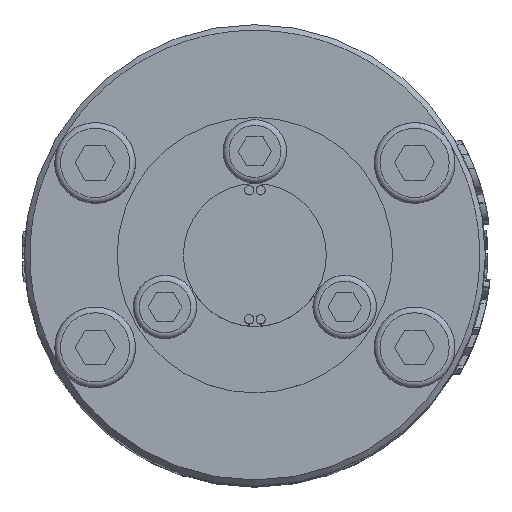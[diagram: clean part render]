
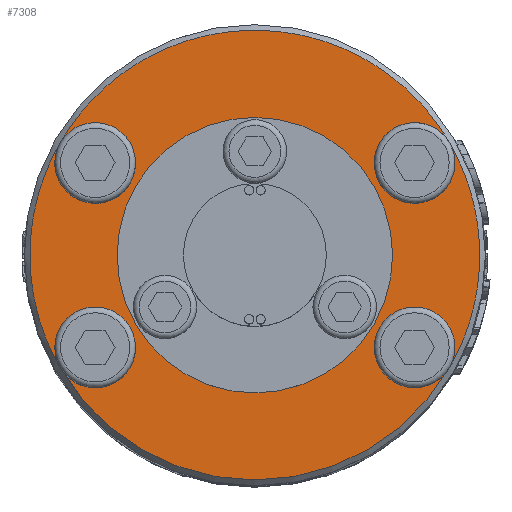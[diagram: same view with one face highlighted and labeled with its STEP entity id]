
A CAD part, top view. The second image highlights one B-rep face of the part: STEP entity #7308.
In plain terms, the highlighted planar face has unit normal (0, 0, 1).
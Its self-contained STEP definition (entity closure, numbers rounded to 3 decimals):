
#7308=ADVANCED_FACE('',(#9370,#9371),#8684,.T.);
#8684=PLANE('',#24955);
#9370=FACE_BOUND('',#9834,.T.);
#9371=FACE_BOUND('',#9835,.T.);
#9834=EDGE_LOOP('',(#11598,#11599,#11600,#11601,#11602,#11603,#11604,#11605));
#9835=EDGE_LOOP('',(#11606));
#11598=ORIENTED_EDGE('',*,*,#21105,.T.);
#11599=ORIENTED_EDGE('',*,*,#21025,.F.);
#11600=ORIENTED_EDGE('',*,*,#21104,.T.);
#11601=ORIENTED_EDGE('',*,*,#21088,.F.);
#11602=ORIENTED_EDGE('',*,*,#21103,.T.);
#11603=ORIENTED_EDGE('',*,*,#21067,.F.);
#11604=ORIENTED_EDGE('',*,*,#21106,.T.);
#11605=ORIENTED_EDGE('',*,*,#21046,.F.);
#11606=ORIENTED_EDGE('',*,*,#21012,.F.);
#18573=VERTEX_POINT('',#29911);
#18586=VERTEX_POINT('',#29947);
#18601=VERTEX_POINT('',#29993);
#18616=VERTEX_POINT('',#30039);
#18631=VERTEX_POINT('',#30085);
#21012=EDGE_CURVE('',#18573,#18573,#24594,.T.);
#21025=EDGE_CURVE('',#18586,#18586,#24601,.T.);
#21046=EDGE_CURVE('',#18601,#18601,#24604,.T.);
#21067=EDGE_CURVE('',#18616,#18616,#24607,.T.);
#21088=EDGE_CURVE('',#18631,#18631,#24610,.T.);
#21103=EDGE_CURVE('',#18631,#18616,#24613,.T.);
#21104=EDGE_CURVE('',#18586,#18631,#24614,.T.);
#21105=EDGE_CURVE('',#18601,#18586,#24615,.T.);
#21106=EDGE_CURVE('',#18616,#18601,#24616,.T.);
#24594=CIRCLE('',#24879,11.95);
#24601=CIRCLE('',#24896,3.5);
#24604=CIRCLE('',#24909,3.5);
#24607=CIRCLE('',#24922,3.5);
#24610=CIRCLE('',#24935,3.5);
#24613=CIRCLE('',#24948,19.5);
#24614=CIRCLE('',#24949,19.5);
#24615=CIRCLE('',#24950,19.5);
#24616=CIRCLE('',#24951,19.5);
#24879=AXIS2_PLACEMENT_3D('',#29910,#26091,#26092);
#24896=AXIS2_PLACEMENT_3D('',#29946,#26131,#26132);
#24909=AXIS2_PLACEMENT_3D('',#29992,#26175,#26176);
#24922=AXIS2_PLACEMENT_3D('',#30038,#26219,#26220);
#24935=AXIS2_PLACEMENT_3D('',#30084,#26263,#26264);
#24948=AXIS2_PLACEMENT_3D('',#30118,#26301,#26302);
#24949=AXIS2_PLACEMENT_3D('',#30119,#26303,#26304);
#24950=AXIS2_PLACEMENT_3D('',#30120,#26305,#26306);
#24951=AXIS2_PLACEMENT_3D('',#30121,#26307,#26308);
#24955=AXIS2_PLACEMENT_3D('',#30126,#26315,#26316);
#26091=DIRECTION('',(0.,0.,1.));
#26092=DIRECTION('',(0.,1.,0.));
#26131=DIRECTION('',(0.,0.,1.));
#26132=DIRECTION('',(1.,0.,0.));
#26175=DIRECTION('',(0.,0.,1.));
#26176=DIRECTION('',(1.,0.,0.));
#26219=DIRECTION('',(0.,0.,1.));
#26220=DIRECTION('',(1.,0.,0.));
#26263=DIRECTION('',(0.,0.,1.));
#26264=DIRECTION('',(1.,0.,0.));
#26301=DIRECTION('',(0.,0.,1.));
#26302=DIRECTION('',(1.,0.,0.));
#26303=DIRECTION('',(0.,0.,1.));
#26304=DIRECTION('',(1.,0.,0.));
#26305=DIRECTION('',(0.,0.,1.));
#26306=DIRECTION('',(1.,0.,0.));
#26307=DIRECTION('',(0.,0.,1.));
#26308=DIRECTION('',(1.,0.,0.));
#26315=DIRECTION('',(0.,0.,1.));
#26316=DIRECTION('',(1.,0.,0.));
#29910=CARTESIAN_POINT('',(0.,0.,94.));
#29911=CARTESIAN_POINT('',(0.,11.95,94.));
#29946=CARTESIAN_POINT('',(13.856,8.,94.));
#29947=CARTESIAN_POINT('',(16.887,9.75,94.));
#29992=CARTESIAN_POINT('',(13.856,-8.,94.));
#29993=CARTESIAN_POINT('',(16.887,-9.75,94.));
#30038=CARTESIAN_POINT('',(-13.856,-8.,94.));
#30039=CARTESIAN_POINT('',(-16.887,-9.75,94.));
#30084=CARTESIAN_POINT('',(-13.856,8.,94.));
#30085=CARTESIAN_POINT('',(-16.887,9.75,94.));
#30118=CARTESIAN_POINT('',(0.,0.,94.));
#30119=CARTESIAN_POINT('',(0.,0.,94.));
#30120=CARTESIAN_POINT('',(0.,0.,94.));
#30121=CARTESIAN_POINT('',(0.,0.,94.));
#30126=CARTESIAN_POINT('',(0.,0.,94.));
